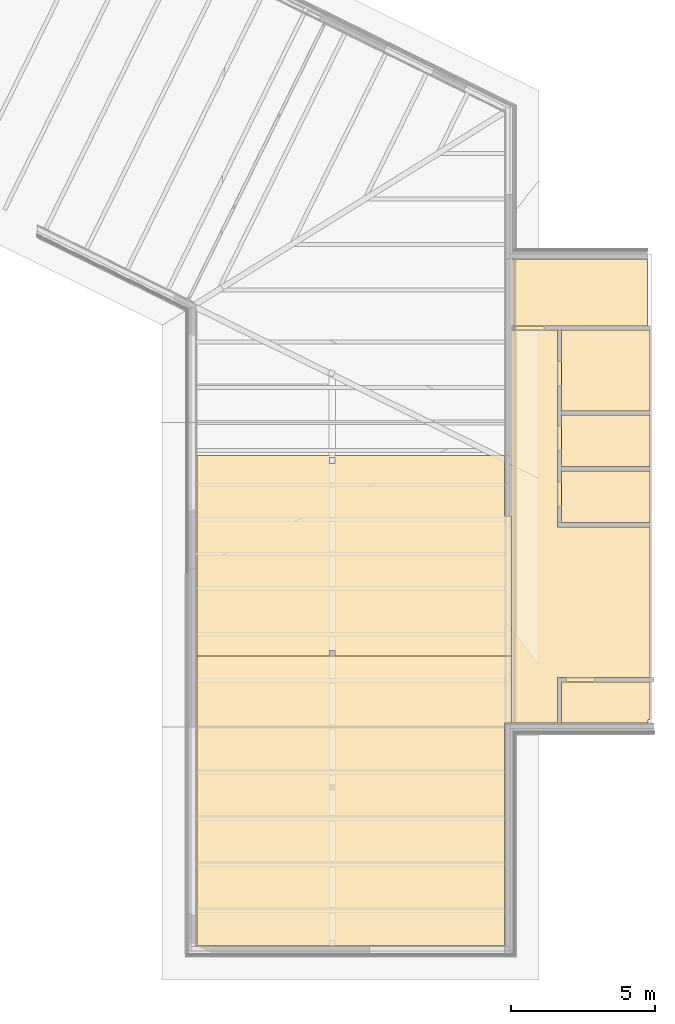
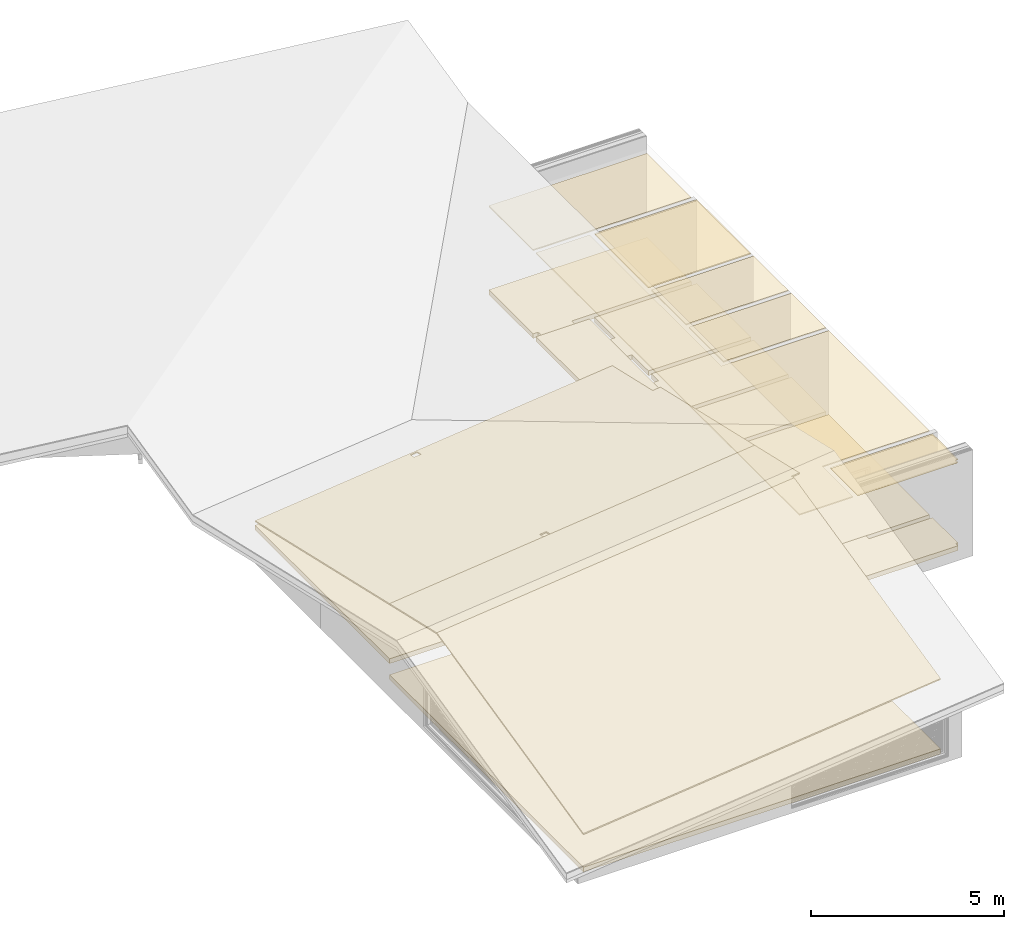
# One storey, part 14 of 14: 24 coverings.
"""IFC4 building model written with IfcOpenShell, lengths in metres."""

from ifc_helpers import new_model, entity, si_unit, converted_unit, derived_unit, frame, frame_2d, origin, origin_with_axes, place, context, subcontext, project, spatial, polyline, rectangle, outline, extrude, material, layer, layer_set, layer_usage, element, save


model = new_model("IFC4")

# Units and contexts
model_context = context("Model", 3, precision=1e-05, world=origin())
body_context = subcontext(model_context, "Body", "Model", "MODEL_VIEW")
ifc_project = project(units=[si_unit("LENGTHUNIT", "METRE"), si_unit("AREAUNIT", "SQUARE_METRE"), si_unit("VOLUMEUNIT", "CUBIC_METRE"), si_unit("MASSUNIT", "GRAM", prefix="KILO"), converted_unit("PLANEANGLEUNIT", "DEGREE", entity("IfcPlaneAngleMeasure", 0.0174532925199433), si_unit("PLANEANGLEUNIT", "RADIAN"), dimensions=[0, 0, 0, 0, 0, 0, 0]), derived_unit("THERMALTRANSMITTANCEUNIT", [(si_unit("POWERUNIT", "WATT"), 1), (si_unit("THERMODYNAMICTEMPERATUREUNIT", "KELVIN"), -1), (si_unit("LENGTHUNIT", "METRE"), -2)]), derived_unit("VOLUMETRICFLOWRATEUNIT", [(si_unit("LENGTHUNIT", "METRE"), 3), (converted_unit("TIMEUNIT", "hour", entity("IfcTimeMeasure", 3600.0), si_unit("TIMEUNIT", "SECOND"), dimensions=[0, 0, 1, 0, 0, 0, 0]), -1), (si_unit("LENGTHUNIT", "METRE"), -1)])], contexts=[model_context])

# Site, building, storey, space
site_placement = place(None, origin())
site = spatial("IfcSite", under=ifc_project, at=site_placement, Name="Psychiatrie Neubau Wunstorf", CompositionType="ELEMENT")
building_placement = place(site_placement, origin())
building = spatial("IfcBuilding", under=site, at=building_placement, Name="Neubau H1 Sozialzentrum", CompositionType="ELEMENT")
storey_placement = place(building_placement, frame((0.0, 0.0, 4.45)))
storey = spatial("IfcBuildingStorey", under=building, at=storey_placement, Name="H1 Ebene +1", CompositionType="ELEMENT", Elevation=4.45)
space_1_placement = place(storey_placement, frame((-15.8625266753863, 14.3122463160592, 0.35)))
space_1 = spatial("IfcSpace", under=storey, at=space_1_placement, Name="WUN-H1-E01", CompositionType="ELEMENT")

# Coverings
ifc_material_1 = material(Name="FB")
ifc_layer_1 = layer(ifc_material_1, 0.15)
ifc_layer_set_1 = layer_set([ifc_layer_1])
ifc_layer_usage_1 = layer_usage(ifc_layer_set_1, "AXIS3", "POSITIVE", 0.0)
covering_1_placement = place(space_1_placement, origin())
element("IfcCovering", 1, at=covering_1_placement, inside=space_1, material=ifc_layer_usage_1, PredefinedType="FLOORING", context=body_context, shape_type="SweptSolid", body=[
    extrude(outline(polyline([(0.0, 6.97599999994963), (0.0, 0.0), (4.60799985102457, 0.0), (4.60799985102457, 0.1999999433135), (4.80799985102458, 0.1999999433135), (4.80799985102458, 0.0), (10.9280013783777, 0.0), (10.9280013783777, 4.88199999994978), (10.6960013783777, 4.88199999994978), (10.6960013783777, 6.97599999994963), (0.0, 6.97599999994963)]), holes=[polyline([(4.80799985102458, 6.8990915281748), (4.80799985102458, 6.6990915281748), (4.60799985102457, 6.6990915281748), (4.60799985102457, 6.8990915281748), (4.80799985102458, 6.8990915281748)])]), origin_with_axes(), (0.0, 0.0, 1.0), 0.15),
])
ifc_material_2 = material(Name="C/C")
ifc_layer_2 = layer(ifc_material_2, 0.036)
ifc_layer_set_2 = layer_set([ifc_layer_2])
ifc_layer_usage_2 = layer_usage(ifc_layer_set_2, "AXIS3", "POSITIVE", 0.0)
covering_2_placement = place(space_1_placement, frame((0.0, 0.0, 0.295272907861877)))
element("IfcCovering", 2, at=covering_2_placement, inside=space_1, material=ifc_layer_usage_2, Name="Gipsfaserplatten 2-lagig (BSK)", PredefinedType="CEILING", context=body_context, shape_type="SweptSolid", body=[
    extrude(outline(polyline([(9.67047209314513, 11.3260387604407), (0.0, 6.6103125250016), (0.894720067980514, 4.65678499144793), (0.684964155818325, 4.55449924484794), (2.7709352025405, 0.0), (8.30415288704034, 2.69822812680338), (8.21869731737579, 2.88481141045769), (8.39952137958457, 2.9729887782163), (8.48497694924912, 2.78640549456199), (12.6511632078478, 4.81801198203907), (9.67047209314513, 11.3260387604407)]), holes=[polyline([(5.35632306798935, 9.13450570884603), (5.53714713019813, 9.22268307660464), (5.62260272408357, 9.03609974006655), (5.44177866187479, 8.94792237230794), (5.35632306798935, 9.13450570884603)])]), frame((13.4332601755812, 1.18395956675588, 2.7923060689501), z_axis=(0.105340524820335, -0.222900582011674, -0.969132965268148), x_axis=(-0.904120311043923, -0.427277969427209, 0.0)), (0.0, 0.246538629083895, 0.969132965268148), 0.037146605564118),
])
ifc_material_3 = material(Name="D4")
ifc_layer_3 = layer(ifc_material_3, 0.001)
ifc_layer_set_3 = layer_set([ifc_layer_3])
ifc_layer_usage_3 = layer_usage(ifc_layer_set_3, "AXIS3", "POSITIVE", 0.0)
covering_3_placement = place(space_1_placement, frame((0.0, 0.0, 0.259272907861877)))
element("IfcCovering", 3, at=covering_3_placement, inside=space_1, material=ifc_layer_usage_3, Name="Gipsfaserplatten 2-lagig (BSK)", PredefinedType="CEILING", context=body_context, shape_type="SweptSolid", body=[
    extrude(outline(polyline([(9.67047209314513, 11.3260387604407), (0.0, 6.6103125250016), (0.894720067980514, 4.65678499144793), (0.684964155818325, 4.55449924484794), (2.7709352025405, 0.0), (8.30415288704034, 2.69822812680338), (8.21869731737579, 2.88481141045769), (8.39952137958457, 2.9729887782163), (8.48497694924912, 2.78640549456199), (12.6511632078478, 4.81801198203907), (9.67047209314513, 11.3260387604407)]), holes=[polyline([(5.35632306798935, 9.13450570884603), (5.53714713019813, 9.22268307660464), (5.62260272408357, 9.03609974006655), (5.44177866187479, 8.94792237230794), (5.35632306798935, 9.13450570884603)])]), frame((13.4332601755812, 1.18395956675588, 2.79115946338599), z_axis=(0.105340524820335, -0.222900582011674, -0.969132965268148), x_axis=(-0.904120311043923, -0.427277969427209, 0.0)), (0.0, 0.246538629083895, 0.969132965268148), 0.00103185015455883),
])

# Space
space_2_placement = place(storey_placement, frame((-3.18450147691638, 11.9922461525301, -0.15)))
space_2 = spatial("IfcSpace", under=storey, at=space_2_placement, Name="WUN-H1-E01", CompositionType="ELEMENT")

# Coverings
ifc_material_4 = material(Name="Ku3")
ifc_layer_4 = layer(ifc_material_4, 0.15)
ifc_layer_set_4 = layer_set([ifc_layer_4])
ifc_layer_usage_4 = layer_usage(ifc_layer_set_4, "AXIS3", "POSITIVE", 0.0)
covering_4_placement = place(space_2_placement, origin())
element("IfcCovering", 4, at=covering_4_placement, inside=space_2, material=ifc_layer_usage_4, Name="PVC", PredefinedType="FLOORING", context=body_context, shape_type="SweptSolid", body=[
    extrude(rectangle(XDim=0.15, YDim=1.01, at=frame_2d((0.504999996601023, -0.0750000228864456), x_axis=(-4.53196935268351e-08, -0.999999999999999))), frame((0.150000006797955, 1.58000015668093, 0.0), z_axis=(0.0, 0.0, 1.0), x_axis=(1.0, 0.0, 0.0)), (0.0, 0.0, 1.0), 0.15),
    extrude(outline(polyline([(3.06350147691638, 1.43000002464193), (0.0, 1.43000016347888), (0.0, 2.34144486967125e-07), (2.99450147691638, 0.0), (2.99450147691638, 0.118000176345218), (3.06350147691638, 0.11800017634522), (3.06350147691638, 1.43000002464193)])), origin_with_axes(), (0.0, 0.0, 1.0), 0.15),
])
ifc_material_5 = material(Name="C/C")
ifc_layer_5 = layer(ifc_material_5, 0.036)
ifc_layer_set_5 = layer_set([ifc_layer_5])
ifc_layer_usage_5 = layer_usage(ifc_layer_set_5, "AXIS3", "POSITIVE", 0.0)
covering_5_placement = place(space_2_placement, frame((0.0, 0.0, 2.81)))
element("IfcCovering", 5, at=covering_5_placement, inside=space_2, material=ifc_layer_usage_5, Name="Gipsfaserplatten 2-lagig (BSK)", PredefinedType="CEILING", context=body_context, shape_type="SweptSolid", body=[
    extrude(outline(polyline([(0.0, 0.0), (3.06350147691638, 1.38836949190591e-07), (3.06350147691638, 1.31199998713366), (2.99450147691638, 1.31199998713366), (2.99450147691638, 1.43000016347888), (0.0, 1.42999992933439), (0.0, 0.0)])), frame((0.0, 1.43000016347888, 0.0), z_axis=(0.0, 0.0, -1.0), x_axis=(1.0, 0.0, 0.0)), (0.0, 0.0, 1.0), 0.036),
])
ifc_material_6 = material(Name="D4")
ifc_layer_6 = layer(ifc_material_6, 0.001)
ifc_layer_set_6 = layer_set([ifc_layer_6])
ifc_layer_usage_6 = layer_usage(ifc_layer_set_6, "AXIS3", "POSITIVE", 0.0)
covering_6_placement = place(space_2_placement, frame((0.0, 0.0, 2.774)))
element("IfcCovering", 6, at=covering_6_placement, inside=space_2, material=ifc_layer_usage_6, Name="Gipsfaserplatten 2-lagig (BSK)", PredefinedType="CEILING", context=body_context, shape_type="SweptSolid", body=[
    extrude(outline(polyline([(0.0, 0.0), (3.06350147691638, 1.38836949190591e-07), (3.06350147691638, 1.31199998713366), (2.99450147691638, 1.31199998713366), (2.99450147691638, 1.43000016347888), (0.0, 1.42999992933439), (0.0, 0.0)])), frame((0.0, 1.43000016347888, 0.0), z_axis=(0.0, 0.0, -1.0), x_axis=(1.0, 0.0, 0.0)), (0.0, 0.0, 1.0), 0.001),
])

# Space
space_3_placement = place(storey_placement, frame((-3.18450147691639, 22.8442446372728, -0.15)))
space_3 = spatial("IfcSpace", under=storey, at=space_3_placement, Name="WUN-H1-E01", CompositionType="ELEMENT")

# Coverings
ifc_material_7 = material(Name="Ku3")
ifc_layer_7 = layer(ifc_material_7, 0.15)
ifc_layer_set_7 = layer_set([ifc_layer_7])
ifc_layer_usage_7 = layer_usage(ifc_layer_set_7, "AXIS3", "POSITIVE", 0.0)
covering_7_placement = place(space_3_placement, frame((-0.149999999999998, 0.0, 0.0)))
element("IfcCovering", 7, at=covering_7_placement, inside=space_3, material=ifc_layer_usage_7, Name="PVC", PredefinedType="FLOORING", context=body_context, shape_type="SweptSolid", body=[
    extrude(rectangle(XDim=0.15, YDim=0.885, at=frame_2d((0.075, 0.4425), x_axis=(1.0, 0.0))), frame((0.0, 0.849999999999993, 0.0), z_axis=(0.0, 0.0, 1.0), x_axis=(1.0, 0.0, 0.0)), (0.0, 0.0, 1.0), 0.15),
    extrude(rectangle(XDim=2.8, YDim=3.06350147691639, at=frame_2d((1.53175073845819, -1.4), x_axis=(0.0, -1.0))), frame((0.149999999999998, 2.8, 0.0), z_axis=(0.0, 0.0, 1.0), x_axis=(1.0, 0.0, 0.0)), (0.0, 0.0, 1.0), 0.15),
])
ifc_material_8 = material(Name="C/C")
ifc_layer_8 = layer(ifc_material_8, 0.036)
ifc_layer_set_8 = layer_set([ifc_layer_8])
ifc_layer_usage_8 = layer_usage(ifc_layer_set_8, "AXIS3", "POSITIVE", 0.0)
covering_8_placement = place(space_3_placement, frame((0.0, 0.0, 2.81)))
element("IfcCovering", 8, at=covering_8_placement, inside=space_3, material=ifc_layer_usage_8, Name="Gipsfaserplatten 2-lagig (BSK)", PredefinedType="CEILING", context=body_context, shape_type="SweptSolid", body=[
    extrude(rectangle(XDim=2.8, YDim=3.06350147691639, at=frame_2d((1.53175073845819, -1.4), x_axis=(0.0, -1.0))), frame((0.0, 0.0, 0.0), z_axis=(0.0, 0.0, -1.0), x_axis=(1.0, 0.0, 0.0)), (0.0, 0.0, 1.0), 0.036),
])
ifc_material_9 = material(Name="D4")
ifc_layer_9 = layer(ifc_material_9, 0.001)
ifc_layer_set_9 = layer_set([ifc_layer_9])
ifc_layer_usage_9 = layer_usage(ifc_layer_set_9, "AXIS3", "POSITIVE", 0.0)
covering_9_placement = place(space_3_placement, frame((0.0, 0.0, 2.774)))
element("IfcCovering", 9, at=covering_9_placement, inside=space_3, material=ifc_layer_usage_9, Name="Gipsfaserplatten 2-lagig (BSK)", PredefinedType="CEILING", context=body_context, shape_type="SweptSolid", body=[
    extrude(rectangle(XDim=2.8, YDim=3.06350147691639, at=frame_2d((1.53175073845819, -1.4), x_axis=(0.0, -1.0))), frame((0.0, 0.0, 0.0), z_axis=(0.0, 0.0, -1.0), x_axis=(1.0, 0.0, 0.0)), (0.0, 0.0, 1.0), 0.001),
])

# Space
space_4_placement = place(storey_placement, frame((-3.18450147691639, 20.8991027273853, -0.15)))
space_4 = spatial("IfcSpace", under=storey, at=space_4_placement, Name="WUN-H1-E01", CompositionType="ELEMENT")

# Coverings
ifc_material_10 = material(Name="Ku3")
ifc_layer_10 = layer(ifc_material_10, 0.15)
ifc_layer_set_10 = layer_set([ifc_layer_10])
ifc_layer_usage_10 = layer_usage(ifc_layer_set_10, "AXIS3", "POSITIVE", 0.0)
covering_10_placement = place(space_4_placement, frame((-0.149999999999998, 0.0, 0.0)))
element("IfcCovering", 10, at=covering_10_placement, inside=space_4, material=ifc_layer_usage_10, Name="PVC", PredefinedType="FLOORING", context=body_context, shape_type="SweptSolid", body=[
    extrude(rectangle(XDim=0.15, YDim=0.885, at=frame_2d((0.075, 0.4425), x_axis=(1.0, 0.0))), frame((0.0, 0.549999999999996, 0.0), z_axis=(0.0, 0.0, 1.0), x_axis=(1.0, 0.0, 0.0)), (0.0, 0.0, 1.0), 0.15),
    extrude(rectangle(XDim=1.7951419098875, YDim=3.06350147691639, at=frame_2d((1.53175073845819, -0.897570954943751), x_axis=(7.59963346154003e-16, -1.0))), frame((0.149999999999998, 1.7951419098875, 0.0), z_axis=(0.0, 0.0, 1.0), x_axis=(1.0, 0.0, 0.0)), (0.0, 0.0, 1.0), 0.15),
])
ifc_material_11 = material(Name="C/C")
ifc_layer_11 = layer(ifc_material_11, 0.036)
ifc_layer_set_11 = layer_set([ifc_layer_11])
ifc_layer_usage_11 = layer_usage(ifc_layer_set_11, "AXIS3", "POSITIVE", 0.0)
covering_11_placement = place(space_4_placement, frame((0.0, 0.0, 2.81)))
element("IfcCovering", 11, at=covering_11_placement, inside=space_4, material=ifc_layer_usage_11, Name="Gipsfaserplatten 2-lagig (BSK)", PredefinedType="CEILING", context=body_context, shape_type="SweptSolid", body=[
    extrude(rectangle(XDim=1.7951419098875, YDim=3.06350147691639, at=frame_2d((1.53175073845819, -0.897570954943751), x_axis=(-7.59963346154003e-16, -1.0))), frame((0.0, 0.0, 0.0), z_axis=(0.0, 0.0, -1.0), x_axis=(1.0, 0.0, 0.0)), (0.0, 0.0, 1.0), 0.036),
])
ifc_material_12 = material(Name="D4")
ifc_layer_12 = layer(ifc_material_12, 0.001)
ifc_layer_set_12 = layer_set([ifc_layer_12])
ifc_layer_usage_12 = layer_usage(ifc_layer_set_12, "AXIS3", "POSITIVE", 0.0)
covering_12_placement = place(space_4_placement, frame((0.0, 0.0, 2.774)))
element("IfcCovering", 12, at=covering_12_placement, inside=space_4, material=ifc_layer_usage_12, Name="Gipsfaserplatten 2-lagig (BSK)", PredefinedType="CEILING", context=body_context, shape_type="SweptSolid", body=[
    extrude(rectangle(XDim=1.7951419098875, YDim=3.06350147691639, at=frame_2d((1.53175073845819, -0.897570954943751), x_axis=(-7.59963346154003e-16, -1.0))), frame((0.0, 0.0, 0.0), z_axis=(0.0, 0.0, -1.0), x_axis=(1.0, 0.0, 0.0)), (0.0, 0.0, 1.0), 0.001),
])

# Space
space_5_placement = place(storey_placement, frame((-4.93452529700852, 25.7942446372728, -0.15)))
space_5 = spatial("IfcSpace", under=storey, at=space_5_placement, Name="WUN-H1-E01", CompositionType="ELEMENT")

# Coverings
ifc_material_13 = material(Name="Ku3")
ifc_layer_13 = layer(ifc_material_13, 0.15)
ifc_layer_set_13 = layer_set([ifc_layer_13])
ifc_layer_usage_13 = layer_usage(ifc_layer_set_13, "AXIS3", "POSITIVE", 0.0)
covering_13_placement = place(space_5_placement, frame((0.0, -0.15, 0.0)))
element("IfcCovering", 13, at=covering_13_placement, inside=space_5, material=ifc_layer_usage_13, Name="PVC", PredefinedType="FLOORING", context=body_context, shape_type="SweptSolid", body=[
    extrude(rectangle(XDim=0.15, YDim=1.01, at=frame_2d((-0.505, 0.075), x_axis=(0.0, 1.0))), frame((1.16, 0.0, 0.0), z_axis=(0.0, 0.0, 1.0), x_axis=(1.0, 0.0, 0.0)), (0.0, 0.0, 1.0), 0.15),
    extrude(rectangle(XDim=2.29999992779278, YDim=4.73352529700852, at=frame_2d((2.36676264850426, -1.14999996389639), x_axis=(0.0, -1.0))), frame((0.0, 2.44999992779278, 0.0), z_axis=(0.0, 0.0, 1.0), x_axis=(1.0, 0.0, 0.0)), (0.0, 0.0, 1.0), 0.15),
])
ifc_material_14 = material(Name="C/C")
ifc_layer_14 = layer(ifc_material_14, 0.036)
ifc_layer_set_14 = layer_set([ifc_layer_14])
ifc_layer_usage_14 = layer_usage(ifc_layer_set_14, "AXIS3", "POSITIVE", 0.0)
covering_14_placement = place(space_5_placement, frame((0.0, 0.0, 2.81)))
element("IfcCovering", 14, at=covering_14_placement, inside=space_5, material=ifc_layer_usage_14, Name="Gipsfaserplatten 2-lagig (BSK)", PredefinedType="CEILING", context=body_context, shape_type="SweptSolid", body=[
    extrude(rectangle(XDim=2.29999992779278, YDim=4.73352529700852, at=frame_2d((2.36676264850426, -1.14999996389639), x_axis=(0.0, -1.0))), frame((0.0, 0.0, 0.0), z_axis=(0.0, 0.0, -1.0), x_axis=(1.0, 0.0, 0.0)), (0.0, 0.0, 1.0), 0.036),
])
ifc_material_15 = material(Name="D4")
ifc_layer_15 = layer(ifc_material_15, 0.001)
ifc_layer_set_15 = layer_set([ifc_layer_15])
ifc_layer_usage_15 = layer_usage(ifc_layer_set_15, "AXIS3", "POSITIVE", 0.0)
covering_15_placement = place(space_5_placement, frame((0.0, 0.0, 2.774)))
element("IfcCovering", 15, at=covering_15_placement, inside=space_5, material=ifc_layer_usage_15, Name="Gipsfaserplatten 2-lagig (BSK)", PredefinedType="CEILING", context=body_context, shape_type="SweptSolid", body=[
    extrude(rectangle(XDim=2.29999992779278, YDim=4.73352529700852, at=frame_2d((2.36676264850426, -1.14999996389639), x_axis=(0.0, -1.0))), frame((0.0, 0.0, 0.0), z_axis=(0.0, 0.0, -1.0), x_axis=(1.0, 0.0, 0.0)), (0.0, 0.0, 1.0), 0.001),
])

# Space
space_6_placement = place(storey_placement, frame((-3.18450147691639, 18.9539608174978, -0.15)))
space_6 = spatial("IfcSpace", under=storey, at=space_6_placement, Name="WUN-H1-E01", CompositionType="ELEMENT")

# Coverings
ifc_material_16 = material(Name="Ku3")
ifc_layer_16 = layer(ifc_material_16, 0.15)
ifc_layer_set_16 = layer_set([ifc_layer_16])
ifc_layer_usage_16 = layer_usage(ifc_layer_set_16, "AXIS3", "POSITIVE", 0.0)
covering_16_placement = place(space_6_placement, frame((-0.150000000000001, 0.0, 0.0)))
element("IfcCovering", 16, at=covering_16_placement, inside=space_6, material=ifc_layer_usage_16, Name="PVC", PredefinedType="FLOORING", context=body_context, shape_type="SweptSolid", body=[
    extrude(rectangle(XDim=0.15, YDim=0.885, at=frame_2d((0.075, 0.4425), x_axis=(1.0, 0.0))), frame((0.0, 0.549999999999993, 0.0), z_axis=(0.0, 0.0, 1.0), x_axis=(1.0, 0.0, 0.0)), (0.0, 0.0, 1.0), 0.15),
    extrude(rectangle(XDim=1.7951419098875, YDim=3.06350147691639, at=frame_2d((1.53175073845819, -0.897570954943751), x_axis=(7.59963346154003e-16, -1.0))), frame((0.150000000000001, 1.7951419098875, 0.0), z_axis=(0.0, 0.0, 1.0), x_axis=(1.0, 0.0, 0.0)), (0.0, 0.0, 1.0), 0.15),
])
ifc_material_17 = material(Name="C/C")
ifc_layer_17 = layer(ifc_material_17, 0.036)
ifc_layer_set_17 = layer_set([ifc_layer_17])
ifc_layer_usage_17 = layer_usage(ifc_layer_set_17, "AXIS3", "POSITIVE", 0.0)
covering_17_placement = place(space_6_placement, frame((0.0, 0.0, 2.81)))
element("IfcCovering", 17, at=covering_17_placement, inside=space_6, material=ifc_layer_usage_17, Name="Gipsfaserplatten 2-lagig (BSK)", PredefinedType="CEILING", context=body_context, shape_type="SweptSolid", body=[
    extrude(rectangle(XDim=1.7951419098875, YDim=3.06350147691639, at=frame_2d((1.53175073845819, -0.897570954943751), x_axis=(-7.59963346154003e-16, -1.0))), frame((0.0, 0.0, 0.0), z_axis=(0.0, 0.0, -1.0), x_axis=(1.0, 0.0, 0.0)), (0.0, 0.0, 1.0), 0.036),
])
ifc_material_18 = material(Name="D4")
ifc_layer_18 = layer(ifc_material_18, 0.001)
ifc_layer_set_18 = layer_set([ifc_layer_18])
ifc_layer_usage_18 = layer_usage(ifc_layer_set_18, "AXIS3", "POSITIVE", 0.0)
covering_18_placement = place(space_6_placement, frame((0.0, 0.0, 2.774)))
element("IfcCovering", 18, at=covering_18_placement, inside=space_6, material=ifc_layer_usage_18, Name="Gipsfaserplatten 2-lagig (BSK)", PredefinedType="CEILING", context=body_context, shape_type="SweptSolid", body=[
    extrude(rectangle(XDim=1.7951419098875, YDim=3.06350147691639, at=frame_2d((1.53175073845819, -0.897570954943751), x_axis=(-7.59963346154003e-16, -1.0))), frame((0.0, 0.0, 0.0), z_axis=(0.0, 0.0, -1.0), x_axis=(1.0, 0.0, 0.0)), (0.0, 0.0, 1.0), 0.001),
])

# Space
space_7_placement = place(storey_placement, frame((-4.93452529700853, 11.9922462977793, -0.15)))
space_7 = spatial("IfcSpace", under=storey, at=space_7_placement, Name="WUN-H1-E01", CompositionType="ELEMENT")

# Coverings
ifc_material_19 = material(Name="Ku3")
ifc_layer_19 = layer(ifc_material_19, 0.15)
ifc_layer_set_19 = layer_set([ifc_layer_19])
ifc_layer_usage_19 = layer_usage(ifc_layer_set_19, "AXIS3", "POSITIVE", 0.0)
covering_19_placement = place(space_7_placement, frame((0.0, 1.77310703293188e-08, 0.0)))
element("IfcCovering", 19, at=covering_19_placement, inside=space_7, material=ifc_layer_usage_19, Name="PVC", PredefinedType="FLOORING", context=body_context, shape_type="SweptSolid", body=[
    extrude(outline(polyline([(0.0, 13.6519983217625), (0.0, 0.0), (1.60002382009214, 7.63168918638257e-08), (1.60002382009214, 1.5800000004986), (4.81352529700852, 1.57999986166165), (4.81352529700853, 6.81171450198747), (1.60002382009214, 6.81171450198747), (1.60002382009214, 13.6519983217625), (0.0, 13.6519983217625)])), origin_with_axes(), (0.0, 0.0, 1.0), 0.15),
])
ifc_material_20 = material(Name="C/C")
ifc_layer_20 = layer(ifc_material_20, 0.036)
ifc_layer_set_20 = layer_set([ifc_layer_20])
ifc_layer_usage_20 = layer_usage(ifc_layer_set_20, "AXIS3", "POSITIVE", 0.0)
covering_20_placement = place(space_7_placement, frame((0.0, 0.0, 2.81)))
element("IfcCovering", 20, at=covering_20_placement, inside=space_7, material=ifc_layer_usage_20, Name="Gipsfaserplatten 2-lagig (BSK)", PredefinedType="CEILING", context=body_context, shape_type="SweptSolid", body=[
    extrude(outline(polyline([(0.0, 13.6519983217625), (0.0, 0.0), (1.60002382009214, 0.0), (1.60002382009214, 6.840283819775), (4.81352529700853, 6.840283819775), (4.81352529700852, 12.0719984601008), (1.60002382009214, 12.0719983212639), (1.60002382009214, 13.6519982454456), (0.0, 13.6519983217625)])), frame((0.0, 13.6519983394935, 0.0), z_axis=(0.0, 0.0, -1.0), x_axis=(1.0, 0.0, 0.0)), (0.0, 0.0, 1.0), 0.036),
])
ifc_material_21 = material(Name="D4")
ifc_layer_21 = layer(ifc_material_21, 0.001)
ifc_layer_set_21 = layer_set([ifc_layer_21])
ifc_layer_usage_21 = layer_usage(ifc_layer_set_21, "AXIS3", "POSITIVE", 0.0)
covering_21_placement = place(space_7_placement, frame((0.0, 0.0, 2.774)))
element("IfcCovering", 21, at=covering_21_placement, inside=space_7, material=ifc_layer_usage_21, Name="Gipsfaserplatten 2-lagig (BSK)", PredefinedType="CEILING", context=body_context, shape_type="SweptSolid", body=[
    extrude(outline(polyline([(0.0, 13.6519983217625), (0.0, 0.0), (1.60002382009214, 0.0), (1.60002382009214, 6.840283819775), (4.81352529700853, 6.840283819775), (4.81352529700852, 12.0719984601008), (1.60002382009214, 12.0719983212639), (1.60002382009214, 13.6519982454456), (0.0, 13.6519983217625)])), frame((0.0, 13.6519983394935, 0.0), z_axis=(0.0, 0.0, -1.0), x_axis=(1.0, 0.0, 0.0)), (0.0, 0.0, 1.0), 0.001),
])

# Space
space_8_placement = place(storey_placement, frame((-15.8625266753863, 4.26232136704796, -0.15)))
space_8 = spatial("IfcSpace", under=storey, at=space_8_placement, Name="WUN-H1-E01", CompositionType="ELEMENT")

# Coverings
ifc_material_22 = material(Name="Ku3")
ifc_layer_22 = layer(ifc_material_22, 0.15)
ifc_layer_set_22 = layer_set([ifc_layer_22])
ifc_layer_usage_22 = layer_usage(ifc_layer_set_22, "AXIS3", "POSITIVE", 0.0)
covering_22_placement = place(space_8_placement, origin())
element("IfcCovering", 22, at=covering_22_placement, inside=space_8, material=ifc_layer_usage_22, Name="PVC", PredefinedType="FLOORING", context=body_context, shape_type="SweptSolid", body=[
    extrude(outline(polyline([(10.9280013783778, 7.72992495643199), (10.9280013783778, 10.0499249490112), (0.0, 10.0499249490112), (0.0, 0.0), (10.6960021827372, 0.0), (10.6960021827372, 7.72992495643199), (10.9280013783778, 7.72992495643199)])), origin_with_axes(), (0.0, 0.0, 1.0), 0.15),
])
ifc_material_23 = material(Name="C/C")
ifc_layer_23 = layer(ifc_material_23, 0.036)
ifc_layer_set_23 = layer_set([ifc_layer_23])
ifc_layer_usage_23 = layer_usage(ifc_layer_set_23, "AXIS3", "POSITIVE", 0.0)
covering_23_placement = place(space_8_placement, frame((0.0, 0.0, 1.21615564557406)))
element("IfcCovering", 23, at=covering_23_placement, inside=space_8, material=ifc_layer_usage_23, Name="Gipsfaserplatten 2-lagig (BSK)", PredefinedType="CEILING", context=body_context, shape_type="SweptSolid", body=[
    extrude(outline(polyline([(0.0, 2.18515629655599), (0.991284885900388, 0.0207895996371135), (1.20104007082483, 0.123074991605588), (1.25740869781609, 0.0), (10.927881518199, 4.71572659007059), (9.88022800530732, 7.00316827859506), (0.0, 2.18515629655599)])), frame((11.8328509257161, 8.13526303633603, 2.91014876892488), z_axis=(0.105340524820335, -0.222900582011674, -0.969132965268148), x_axis=(-0.904120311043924, -0.427277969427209, 0.0)), (0.0, 0.246538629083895, 0.969132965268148), 0.037146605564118),
    extrude(outline(polyline([(12.9169308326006, 7.08830095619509), (3.2464580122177, 11.8040275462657), (0.0, 4.71572659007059), (9.67047282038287, 0.0), (12.9169308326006, 7.08830095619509)])), frame((1.95273128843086, 11.7299799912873, 2.91014876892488), z_axis=(0.105340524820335, 0.222900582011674, -0.969132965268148), x_axis=(0.904120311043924, -0.427277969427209, 0.0)), (0.0, 0.246538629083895, 0.969132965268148), 0.037146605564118),
])
ifc_material_24 = material(Name="D4")
ifc_layer_24 = layer(ifc_material_24, 0.001)
ifc_layer_set_24 = layer_set([ifc_layer_24])
ifc_layer_usage_24 = layer_usage(ifc_layer_set_24, "AXIS3", "POSITIVE", 0.0)
covering_24_placement = place(space_8_placement, frame((0.0, 0.0, 1.18015564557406)))
element("IfcCovering", 24, at=covering_24_placement, inside=space_8, material=ifc_layer_usage_24, Name="Gipsfaserplatten 2-lagig (BSK)", PredefinedType="CEILING", context=body_context, shape_type="SweptSolid", body=[
    extrude(outline(polyline([(0.0, 2.18515629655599), (0.991284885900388, 0.0207895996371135), (1.20104007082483, 0.123074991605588), (1.25740869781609, 0.0), (10.927881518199, 4.71572659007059), (9.88022800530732, 7.00316827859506), (0.0, 2.18515629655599)])), frame((11.8328509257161, 8.13526303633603, 2.90900216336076), z_axis=(0.105340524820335, -0.222900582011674, -0.969132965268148), x_axis=(-0.904120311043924, -0.427277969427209, 0.0)), (0.0, 0.246538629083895, 0.969132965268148), 0.00103185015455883),
    extrude(outline(polyline([(12.9169308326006, 7.08830095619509), (3.2464580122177, 11.8040275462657), (0.0, 4.71572659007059), (9.67047282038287, 0.0), (12.9169308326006, 7.08830095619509)])), frame((1.95273128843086, 11.7299799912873, 2.90900216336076), z_axis=(0.105340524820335, 0.222900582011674, -0.969132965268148), x_axis=(0.904120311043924, -0.427277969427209, 0.0)), (0.0, 0.246538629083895, 0.969132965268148), 0.00103185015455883),
])

save(model, "model.ifc")
